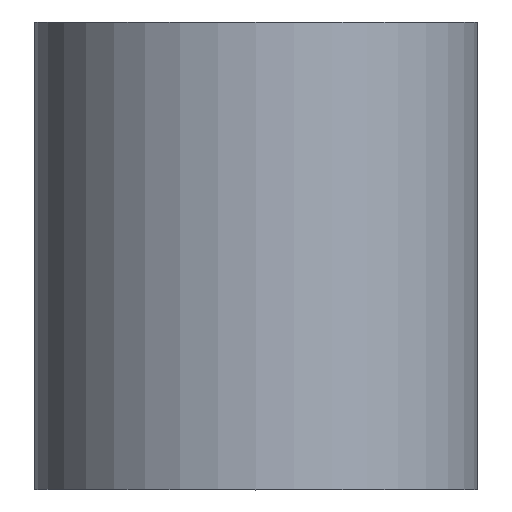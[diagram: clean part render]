
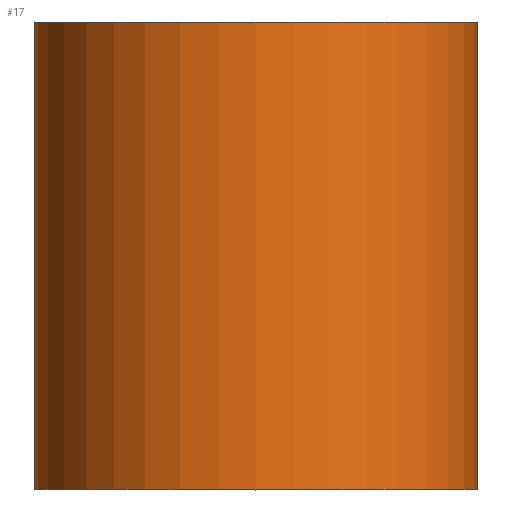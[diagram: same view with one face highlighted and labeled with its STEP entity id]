
A CAD part, top view. The second image highlights one B-rep face of the part: STEP entity #17.
In plain terms, the highlighted cylindrical face has radius 45 mm (diameter 90 mm), a full revolution.
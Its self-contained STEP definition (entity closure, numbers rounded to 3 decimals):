
#17 = ADVANCED_FACE('',(#18),#32,.T.);
#18 = FACE_BOUND('',#19,.F.);
#19 = EDGE_LOOP('',(#20,#50,#77,#78));
#20 = ORIENTED_EDGE('',*,*,#21,.T.);
#21 = EDGE_CURVE('',#22,#24,#26,.T.);
#22 = VERTEX_POINT('',#23);
#23 = CARTESIAN_POINT('',(45.,50.,94.65));
#24 = VERTEX_POINT('',#25);
#25 = CARTESIAN_POINT('',(45.,-45.,94.65));
#26 = SEAM_CURVE('',#27,(#31,#43),.PCURVE_S1.);
#27 = LINE('',#28,#29);
#28 = CARTESIAN_POINT('',(45.,50.,94.65));
#29 = VECTOR('',#30,1.);
#30 = DIRECTION('',(0.,-1.,0.));
#31 = PCURVE('',#32,#37);
#32 = CYLINDRICAL_SURFACE('',#33,45.);
#33 = AXIS2_PLACEMENT_3D('',#34,#35,#36);
#34 = CARTESIAN_POINT('',(0.,50.,94.65));
#35 = DIRECTION('',(-0.,1.,-0.));
#36 = DIRECTION('',(1.,0.,0.));
#37 = DEFINITIONAL_REPRESENTATION('',(#38),#42);
#38 = LINE('',#39,#40);
#39 = CARTESIAN_POINT('',(-0.,0.));
#40 = VECTOR('',#41,1.);
#41 = DIRECTION('',(-0.,-1.));
#42 = ( GEOMETRIC_REPRESENTATION_CONTEXT(2) 
PARAMETRIC_REPRESENTATION_CONTEXT() REPRESENTATION_CONTEXT('2D SPACE',''
  ) );
#43 = PCURVE('',#32,#44);
#44 = DEFINITIONAL_REPRESENTATION('',(#45),#49);
#45 = LINE('',#46,#47);
#46 = CARTESIAN_POINT('',(-6.283,0.));
#47 = VECTOR('',#48,1.);
#48 = DIRECTION('',(-0.,-1.));
#49 = ( GEOMETRIC_REPRESENTATION_CONTEXT(2) 
PARAMETRIC_REPRESENTATION_CONTEXT() REPRESENTATION_CONTEXT('2D SPACE',''
  ) );
#50 = ORIENTED_EDGE('',*,*,#51,.T.);
#51 = EDGE_CURVE('',#24,#24,#52,.T.);
#52 = SURFACE_CURVE('',#53,(#58,#65),.PCURVE_S1.);
#53 = CIRCLE('',#54,45.);
#54 = AXIS2_PLACEMENT_3D('',#55,#56,#57);
#55 = CARTESIAN_POINT('',(0.,-45.,94.65));
#56 = DIRECTION('',(0.,-1.,0.));
#57 = DIRECTION('',(1.,0.,0.));
#58 = PCURVE('',#32,#59);
#59 = DEFINITIONAL_REPRESENTATION('',(#60),#64);
#60 = LINE('',#61,#62);
#61 = CARTESIAN_POINT('',(-0.,-95.));
#62 = VECTOR('',#63,1.);
#63 = DIRECTION('',(-1.,0.));
#64 = ( GEOMETRIC_REPRESENTATION_CONTEXT(2) 
PARAMETRIC_REPRESENTATION_CONTEXT() REPRESENTATION_CONTEXT('2D SPACE',''
  ) );
#65 = PCURVE('',#66,#71);
#66 = PLANE('',#67);
#67 = AXIS2_PLACEMENT_3D('',#68,#69,#70);
#68 = CARTESIAN_POINT('',(0.,-45.,94.65));
#69 = DIRECTION('',(-0.,-1.,-0.));
#70 = DIRECTION('',(0.,0.,-1.));
#71 = DEFINITIONAL_REPRESENTATION('',(#72),#76);
#72 = CIRCLE('',#73,45.);
#73 = AXIS2_PLACEMENT_2D('',#74,#75);
#74 = CARTESIAN_POINT('',(0.,0.));
#75 = DIRECTION('',(0.,1.));
#76 = ( GEOMETRIC_REPRESENTATION_CONTEXT(2) 
PARAMETRIC_REPRESENTATION_CONTEXT() REPRESENTATION_CONTEXT('2D SPACE',''
  ) );
#77 = ORIENTED_EDGE('',*,*,#21,.F.);
#78 = ORIENTED_EDGE('',*,*,#79,.F.);
#79 = EDGE_CURVE('',#22,#22,#80,.T.);
#80 = SURFACE_CURVE('',#81,(#86,#93),.PCURVE_S1.);
#81 = CIRCLE('',#82,45.);
#82 = AXIS2_PLACEMENT_3D('',#83,#84,#85);
#83 = CARTESIAN_POINT('',(0.,50.,94.65));
#84 = DIRECTION('',(0.,-1.,0.));
#85 = DIRECTION('',(1.,0.,0.));
#86 = PCURVE('',#32,#87);
#87 = DEFINITIONAL_REPRESENTATION('',(#88),#92);
#88 = LINE('',#89,#90);
#89 = CARTESIAN_POINT('',(-0.,0.));
#90 = VECTOR('',#91,1.);
#91 = DIRECTION('',(-1.,0.));
#92 = ( GEOMETRIC_REPRESENTATION_CONTEXT(2) 
PARAMETRIC_REPRESENTATION_CONTEXT() REPRESENTATION_CONTEXT('2D SPACE',''
  ) );
#93 = PCURVE('',#94,#99);
#94 = PLANE('',#95);
#95 = AXIS2_PLACEMENT_3D('',#96,#97,#98);
#96 = CARTESIAN_POINT('',(0.,50.,94.65));
#97 = DIRECTION('',(-0.,-1.,-0.));
#98 = DIRECTION('',(0.,0.,-1.));
#99 = DEFINITIONAL_REPRESENTATION('',(#100),#104);
#100 = CIRCLE('',#101,45.);
#101 = AXIS2_PLACEMENT_2D('',#102,#103);
#102 = CARTESIAN_POINT('',(0.,0.));
#103 = DIRECTION('',(0.,1.));
#104 = ( GEOMETRIC_REPRESENTATION_CONTEXT(2) 
PARAMETRIC_REPRESENTATION_CONTEXT() REPRESENTATION_CONTEXT('2D SPACE',''
  ) );
